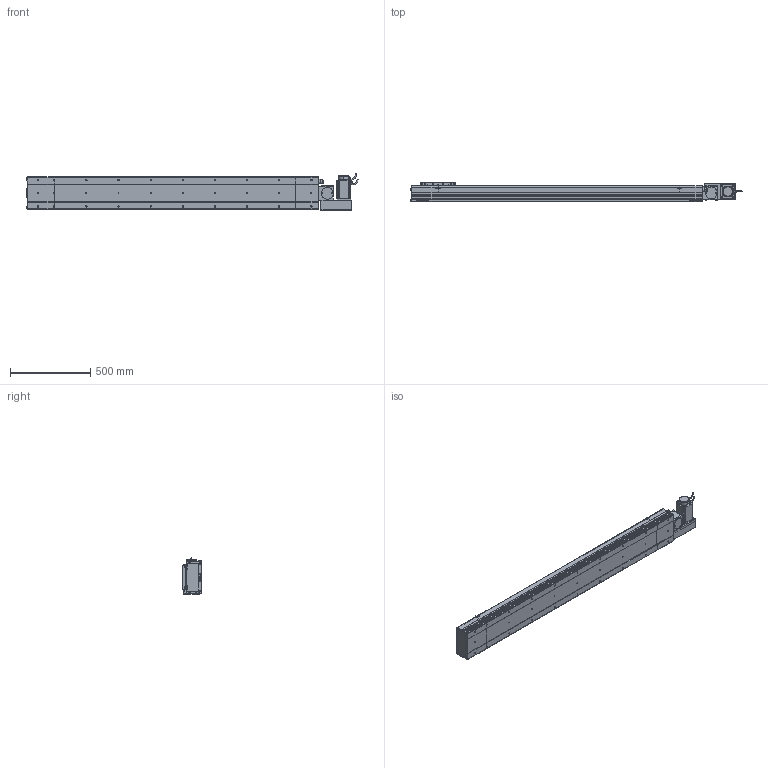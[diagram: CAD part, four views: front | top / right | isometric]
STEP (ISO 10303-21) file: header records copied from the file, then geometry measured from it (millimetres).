
FILE_DESCRIPTION (( 'STEP AP214' ), '1' );
FILE_NAME ('D20 CBH RH S1500.STEP', '2010-06-30T09:31:51', ( 'Conseil Régional Haute-Normandie' ), ( 'Conseil Régional Haute-Normandie' ), 'SwSTEP 2.0', 'SolidWorks 2010', '' );
FILE_SCHEMA (( 'AUTOMOTIVE_DESIGN' ));
Length unit declared in the file: millimetre
Products named in the file (31): vis M5 L15_Default; Plaque De Serrage D20_Default; Plaque de Bout Tail D20_Default; Couvercle_Default; Corp Tail D20+100_Default; Tail D20+100_Default; Couvercle S1500_Default; Corp S1500_Default; Corp D20 S1500_Default; Glissiere_Default; Corp Tail D20 RH_Default; Head D20 RH_Default; D20 CBH RH S1500; Plaque De Serrage D20 RH_Default; Plaque de Bout Head D20 RH_Default; Couvercle RH_Default; Moteur motionking 90BLDC125A-640; Support moteur RH_Default; Rondelle Cache D20 RH_Default; codeur 90BLDC125-640; corps 90BLDC125A-640; avant 90BLDC125A-640; ecrou_Default; Conecteur_Default; Conecteur2_Default; vis M5 L47_Default; Cache Support Moteur RH_Default; vis M5 L30_Default; Chariot D20_Default; Support Chariot D20_Default
Assembly tree (68 placements, depth 4):
  D20 CBH RH S1500
    Corp D20 S1500_Default
      Corp S1500_Default
      Couvercle S1500_Default
    Head D20 RH_Default
      ecrou_Default  x4
      vis M5 L15_Default  x14
      vis M5 L47_Default  x4
      Cache Support Moteur RH_Default
      Plaque De Serrage D20 RH_Default
      Rondelle Cache D20 RH_Default  x3
      Couvercle RH_Default
      Plaque de Bout Head D20 RH_Default
      vis M5 L30_Default  x4
      Support moteur RH_Default
      Moteur motionking 90BLDC125A-640
        Conecteur_Default
        Conecteur2_Default
        avant 90BLDC125A-640
        codeur 90BLDC125-640
        corps 90BLDC125A-640
      Corp Tail D20 RH_Default
    Chariot D20_Default
      vis M5 L15_Default  x8
      Support Chariot D20_Default
      Glissiere_Default
      Chariot D20_Default
    Tail D20+100_Default
      vis M5 L15_Default  x6
      Couvercle_Default
      Plaque De Serrage D20_Default
      Corp Tail D20+100_Default
      Plaque de Bout Tail D20_Default
Bounding box: 2065.45 x 119.5 x 229.7 mm (x, y, z)
Volume: 13765121.4 mm3; surface area: 2727237.7 mm2
Topology: 105 solids, 105 shells, 3802 faces, 9480 edges, 6154 vertices
Faces by surface type: plane 2125, bspline 806, cylinder 700, torus 95, cone 72, sphere 4
Entity records: 159110 total; most frequent: CARTESIAN_POINT 82268, ORIENTED_EDGE 15228, DIRECTION 11542, EDGE_CURVE 7614, VERTEX_POINT 5038, VECTOR 4942, LINE 4942, AXIS2_PLACEMENT_3D 3300
